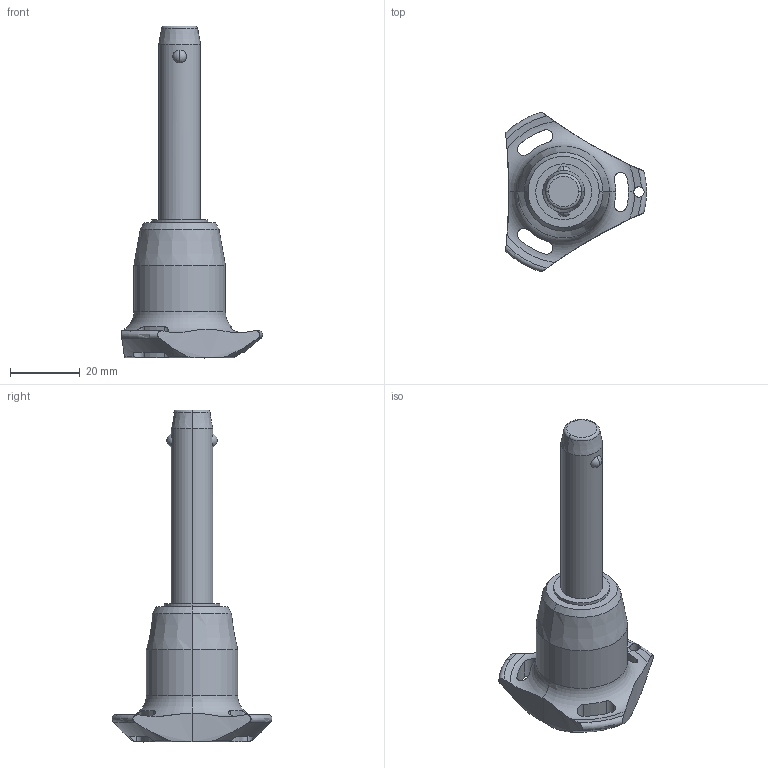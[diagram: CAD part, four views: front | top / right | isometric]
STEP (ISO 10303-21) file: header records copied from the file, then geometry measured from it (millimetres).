
FILE_DESCRIPTION (( 'STEP AP203' ), '1' );
FILE_NAME ('QR1714.M12-045-S.step', '2025-11-12T10:14:35', ( '' ), ( '' ), 'SwSTEP 2.0', 'SolidWorks 2019', '' );
FILE_SCHEMA (( 'CONFIG_CONTROL_DESIGN' ));
Length unit declared in the file: millimetre
Products named in the file (1): QR1714.M12-045-S
Bounding box: 40.5 x 45.88 x 95.3 mm (x, y, z)
Volume: 28224.6 mm3; surface area: 8034.1 mm2
Topology: 1 solids, 1 shells, 65 faces, 178 edges, 113 vertices
Faces by surface type: cylinder 30, cone 14, torus 11, sphere 6, plane 4
Entity records: 2862 total; most frequent: CARTESIAN_POINT 1173, ORIENTED_EDGE 356, DIRECTION 329, EDGE_CURVE 178, AXIS2_PLACEMENT_3D 147, VERTEX_POINT 113, CIRCLE 81, EDGE_LOOP 71
